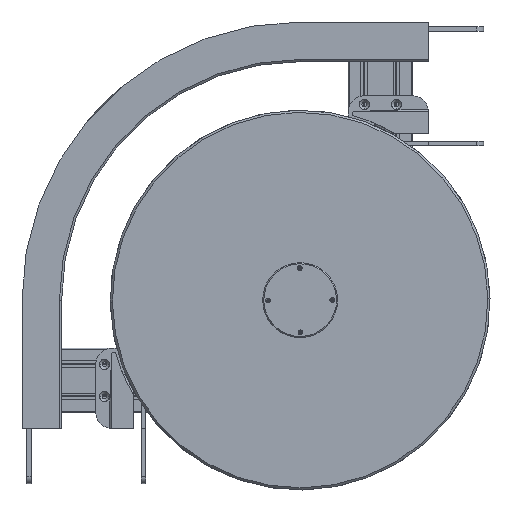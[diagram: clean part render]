
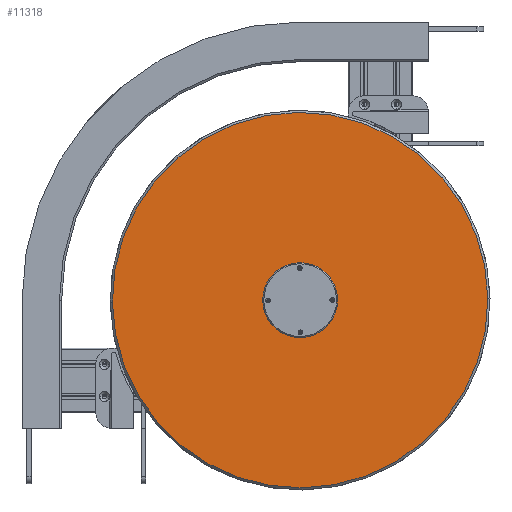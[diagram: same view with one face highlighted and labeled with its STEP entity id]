
A CAD part, front view. The second image highlights one B-rep face of the part: STEP entity #11318.
In plain terms, the highlighted planar face has unit normal (0, -1, 0) as drawn and (0, 1, 0) by its records, which use the part's own axes.
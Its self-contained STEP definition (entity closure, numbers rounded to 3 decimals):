
#86 = DIRECTION ( 'NONE',  ( 0., 0., 1. ) ) ;
#226 = AXIS2_PLACEMENT_3D ( 'NONE', #13207, #24592, #22983 ) ;
#236 = EDGE_CURVE ( 'NONE', #26284, #25250, #17287, .T. ) ;
#450 = CARTESIAN_POINT ( 'NONE',  ( -30., 10., 0. ) ) ;
#777 = EDGE_LOOP ( 'NONE', ( #7308, #23958 ) ) ;
#1653 = FACE_BOUND ( 'NONE', #24871, .T. ) ;
#1985 = FACE_BOUND ( 'NONE', #15596, .T. ) ;
#2211 = DIRECTION ( 'NONE',  ( 0., 1., 0. ) ) ;
#3514 = CIRCLE ( 'NONE', #11988, 0.75 ) ;
#3937 = CARTESIAN_POINT ( 'NONE',  ( 0., 10., 0. ) ) ;
#4106 = DIRECTION ( 'NONE',  ( 0., 1., 0. ) ) ;
#4112 = AXIS2_PLACEMENT_3D ( 'NONE', #8719, #19959, #22541 ) ;
#4350 = CARTESIAN_POINT ( 'NONE',  ( 0., 10., 30. ) ) ;
#4431 = ORIENTED_EDGE ( 'NONE', *, *, #24718, .F. ) ;
#4440 = DIRECTION ( 'NONE',  ( 0., 0., 1. ) ) ;
#4515 = CIRCLE ( 'NONE', #26477, 0.75 ) ;
#4742 = VERTEX_POINT ( 'NONE', #19386 ) ;
#5508 = FACE_BOUND ( 'NONE', #12842, .T. ) ;
#5611 = VERTEX_POINT ( 'NONE', #7746 ) ;
#6275 = ORIENTED_EDGE ( 'NONE', *, *, #24059, .F. ) ;
#6366 = AXIS2_PLACEMENT_3D ( 'NONE', #3937, #12716, #28741 ) ;
#6493 = VERTEX_POINT ( 'NONE', #17145 ) ;
#6705 = CARTESIAN_POINT ( 'NONE',  ( 0., 10., 175.5 ) ) ;
#6790 = CARTESIAN_POINT ( 'NONE',  ( 30., 10., 0. ) ) ;
#6854 = DIRECTION ( 'NONE',  ( 0., 1., 0. ) ) ;
#6857 = CIRCLE ( 'NONE', #21959, 0.75 ) ;
#7101 = CIRCLE ( 'NONE', #6366, 175.5 ) ;
#7144 = CIRCLE ( 'NONE', #26387, 0.75 ) ;
#7308 = ORIENTED_EDGE ( 'NONE', *, *, #16696, .T. ) ;
#7746 = CARTESIAN_POINT ( 'NONE',  ( 0., 10., -29.25 ) ) ;
#7932 = EDGE_CURVE ( 'NONE', #17504, #13273, #8956, .T. ) ;
#8299 = ORIENTED_EDGE ( 'NONE', *, *, #15113, .F. ) ;
#8621 = DIRECTION ( 'NONE',  ( 0., 1., 0. ) ) ;
#8663 = FACE_BOUND ( 'NONE', #27058, .T. ) ;
#8719 = CARTESIAN_POINT ( 'NONE',  ( 0., 10., 0. ) ) ;
#8796 = EDGE_CURVE ( 'NONE', #28664, #14628, #6857, .T. ) ;
#8814 = CARTESIAN_POINT ( 'NONE',  ( 0., 10., -175.5 ) ) ;
#8956 = CIRCLE ( 'NONE', #13049, 0.75 ) ;
#9038 = DIRECTION ( 'NONE',  ( 0., 1., 0. ) ) ;
#9091 = CIRCLE ( 'NONE', #23282, 0.75 ) ;
#10285 = AXIS2_PLACEMENT_3D ( 'NONE', #6790, #13666, #20178 ) ;
#10417 = EDGE_LOOP ( 'NONE', ( #23467, #11384 ) ) ;
#11096 = DIRECTION ( 'NONE',  ( 0., 0., 1. ) ) ;
#11318 = ADVANCED_FACE ( 'NONE', ( #15355, #5508, #8663, #1985, #23484, #1653 ), #20119, .T. ) ;
#11384 = ORIENTED_EDGE ( 'NONE', *, *, #19653, .F. ) ;
#11969 = CIRCLE ( 'NONE', #23839, 25. ) ;
#11988 = AXIS2_PLACEMENT_3D ( 'NONE', #4350, #24789, #4440 ) ;
#12716 = DIRECTION ( 'NONE',  ( 0., 1., 0. ) ) ;
#12842 = EDGE_LOOP ( 'NONE', ( #4431, #12968 ) ) ;
#12968 = ORIENTED_EDGE ( 'NONE', *, *, #8796, .F. ) ;
#13049 = AXIS2_PLACEMENT_3D ( 'NONE', #21070, #27851, #14165 ) ;
#13207 = CARTESIAN_POINT ( 'NONE',  ( 0., 10., 0. ) ) ;
#13273 = VERTEX_POINT ( 'NONE', #18627 ) ;
#13339 = CARTESIAN_POINT ( 'NONE',  ( 0., 10., -30. ) ) ;
#13517 = CARTESIAN_POINT ( 'NONE',  ( -30., 10., 0. ) ) ;
#13566 = CARTESIAN_POINT ( 'NONE',  ( 30., 10., 0. ) ) ;
#13666 = DIRECTION ( 'NONE',  ( 0., 1., 0. ) ) ;
#14165 = DIRECTION ( 'NONE',  ( 0., 0., 1. ) ) ;
#14357 = CIRCLE ( 'NONE', #4112, 175.5 ) ;
#14628 = VERTEX_POINT ( 'NONE', #17850 ) ;
#14811 = CARTESIAN_POINT ( 'NONE',  ( 0., 10., 30.75 ) ) ;
#14986 = VERTEX_POINT ( 'NONE', #6705 ) ;
#15113 = EDGE_CURVE ( 'NONE', #21605, #6493, #7144, .T. ) ;
#15355 = FACE_BOUND ( 'NONE', #10417, .T. ) ;
#15596 = EDGE_LOOP ( 'NONE', ( #8299, #24939 ) ) ;
#15892 = DIRECTION ( 'NONE',  ( 0., 1., 0. ) ) ;
#16696 = EDGE_CURVE ( 'NONE', #18444, #14986, #7101, .T. ) ;
#17145 = CARTESIAN_POINT ( 'NONE',  ( -30., 10., -0.75 ) ) ;
#17287 = CIRCLE ( 'NONE', #27514, 25. ) ;
#17504 = VERTEX_POINT ( 'NONE', #14811 ) ;
#17850 = CARTESIAN_POINT ( 'NONE',  ( 30., 10., 0.75 ) ) ;
#18234 = ORIENTED_EDGE ( 'NONE', *, *, #27588, .F. ) ;
#18444 = VERTEX_POINT ( 'NONE', #8814 ) ;
#18519 = DIRECTION ( 'NONE',  ( 0., 1., 0. ) ) ;
#18627 = CARTESIAN_POINT ( 'NONE',  ( 0., 10., 29.25 ) ) ;
#18752 = AXIS2_PLACEMENT_3D ( 'NONE', #13517, #2211, #86 ) ;
#18995 = CARTESIAN_POINT ( 'NONE',  ( 0., 10., 0. ) ) ;
#19386 = CARTESIAN_POINT ( 'NONE',  ( 0., 10., -30.75 ) ) ;
#19653 = EDGE_CURVE ( 'NONE', #4742, #5611, #4515, .T. ) ;
#19654 = EDGE_CURVE ( 'NONE', #14986, #18444, #14357, .T. ) ;
#19959 = DIRECTION ( 'NONE',  ( 0., 1., 0. ) ) ;
#20119 = PLANE ( 'NONE',  #226 ) ;
#20148 = CARTESIAN_POINT ( 'NONE',  ( 0., 10., 0. ) ) ;
#20178 = DIRECTION ( 'NONE',  ( 0., 0., 1. ) ) ;
#20335 = ORIENTED_EDGE ( 'NONE', *, *, #7932, .F. ) ;
#21070 = CARTESIAN_POINT ( 'NONE',  ( 0., 10., 30. ) ) ;
#21536 = CIRCLE ( 'NONE', #18752, 0.75 ) ;
#21605 = VERTEX_POINT ( 'NONE', #22621 ) ;
#21861 = CIRCLE ( 'NONE', #10285, 0.75 ) ;
#21959 = AXIS2_PLACEMENT_3D ( 'NONE', #13566, #9038, #27176 ) ;
#22137 = CARTESIAN_POINT ( 'NONE',  ( 0., 10., -30. ) ) ;
#22516 = CARTESIAN_POINT ( 'NONE',  ( 0., 10., 25. ) ) ;
#22541 = DIRECTION ( 'NONE',  ( 0., 0., 1. ) ) ;
#22621 = CARTESIAN_POINT ( 'NONE',  ( -30., 10., 0.75 ) ) ;
#22983 = DIRECTION ( 'NONE',  ( 0., 0., 1. ) ) ;
#23079 = EDGE_CURVE ( 'NONE', #6493, #21605, #21536, .T. ) ;
#23282 = AXIS2_PLACEMENT_3D ( 'NONE', #13339, #15892, #24535 ) ;
#23467 = ORIENTED_EDGE ( 'NONE', *, *, #27615, .F. ) ;
#23484 = FACE_OUTER_BOUND ( 'NONE', #777, .T. ) ;
#23839 = AXIS2_PLACEMENT_3D ( 'NONE', #20148, #6854, #11096 ) ;
#23902 = ORIENTED_EDGE ( 'NONE', *, *, #236, .F. ) ;
#23958 = ORIENTED_EDGE ( 'NONE', *, *, #19654, .T. ) ;
#24059 = EDGE_CURVE ( 'NONE', #13273, #17504, #3514, .T. ) ;
#24428 = DIRECTION ( 'NONE',  ( 0., 0., 1. ) ) ;
#24535 = DIRECTION ( 'NONE',  ( 0., 0., 1. ) ) ;
#24592 = DIRECTION ( 'NONE',  ( 0., 1., 0. ) ) ;
#24718 = EDGE_CURVE ( 'NONE', #14628, #28664, #21861, .T. ) ;
#24789 = DIRECTION ( 'NONE',  ( 0., 1., 0. ) ) ;
#24871 = EDGE_LOOP ( 'NONE', ( #18234, #23902 ) ) ;
#24923 = DIRECTION ( 'NONE',  ( 0., 0., 1. ) ) ;
#24939 = ORIENTED_EDGE ( 'NONE', *, *, #23079, .F. ) ;
#25250 = VERTEX_POINT ( 'NONE', #22516 ) ;
#26247 = CARTESIAN_POINT ( 'NONE',  ( 0., 10., -25. ) ) ;
#26284 = VERTEX_POINT ( 'NONE', #26247 ) ;
#26387 = AXIS2_PLACEMENT_3D ( 'NONE', #450, #18519, #27374 ) ;
#26477 = AXIS2_PLACEMENT_3D ( 'NONE', #22137, #8621, #24428 ) ;
#27058 = EDGE_LOOP ( 'NONE', ( #20335, #6275 ) ) ;
#27176 = DIRECTION ( 'NONE',  ( 0., 0., 1. ) ) ;
#27374 = DIRECTION ( 'NONE',  ( 0., 0., 1. ) ) ;
#27514 = AXIS2_PLACEMENT_3D ( 'NONE', #18995, #4106, #24923 ) ;
#27588 = EDGE_CURVE ( 'NONE', #25250, #26284, #11969, .T. ) ;
#27615 = EDGE_CURVE ( 'NONE', #5611, #4742, #9091, .T. ) ;
#27851 = DIRECTION ( 'NONE',  ( 0., 1., 0. ) ) ;
#28664 = VERTEX_POINT ( 'NONE', #29181 ) ;
#28741 = DIRECTION ( 'NONE',  ( 0., 0., 1. ) ) ;
#29181 = CARTESIAN_POINT ( 'NONE',  ( 30., 10., -0.75 ) ) ;
